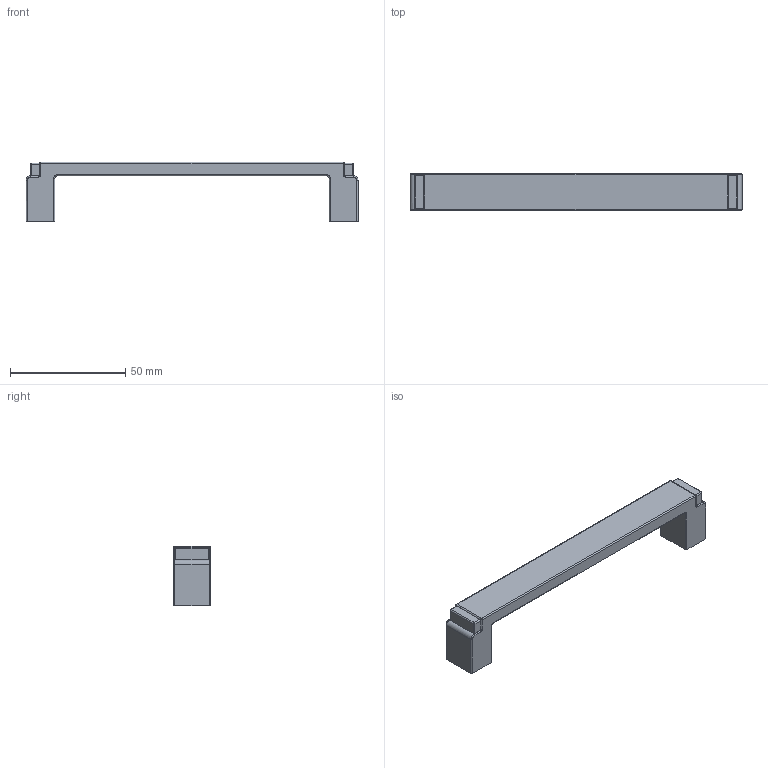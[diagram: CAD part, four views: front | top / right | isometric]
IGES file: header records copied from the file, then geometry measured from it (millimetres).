
Start section: C
Global section: file name: 8105-144.igs; native system: By Siemens PLM Incorporated; preprocessor: XPlus GENERIC/IGES 16.0.42; author: Author; organization: Title; date: 20231128.105635; units: millimetre
Bounding box: 144 x 16 x 26 mm (x, y, z)
Surface area: 11716.2 mm2 (no closed solid volume)
Topology: 0 solids, 0 shells, 301 faces, 1822 edges, 1814 vertices
Faces by surface type: bspline 301
